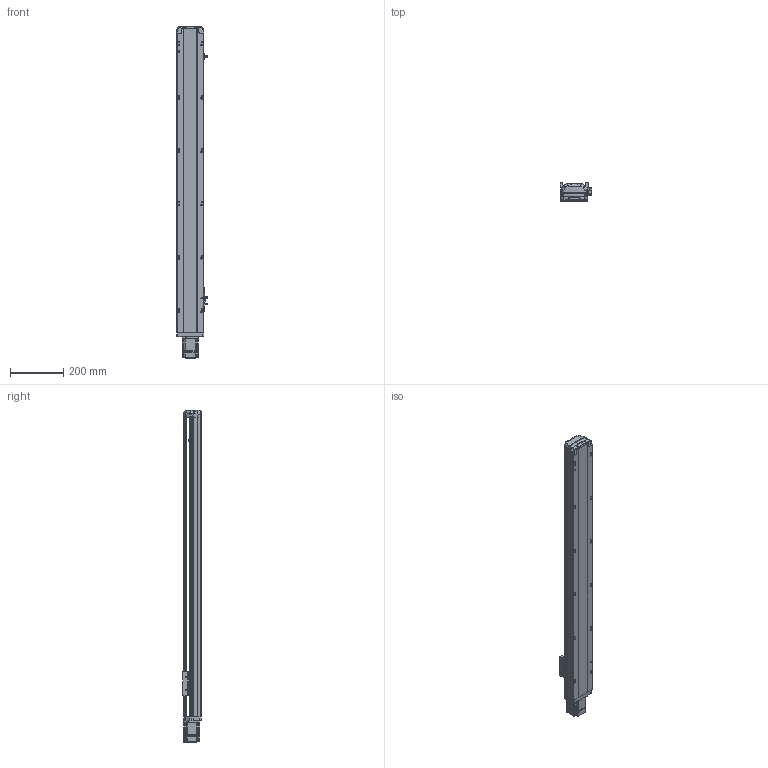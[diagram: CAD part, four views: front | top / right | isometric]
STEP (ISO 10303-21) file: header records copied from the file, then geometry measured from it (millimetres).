
FILE_DESCRIPTION (( 'STEP AP214' ), '1' );
FILE_NAME ('RTH10-XX-900-E-M20-C4.STEP', '2025-10-24T10:48:07', ( '' ), ( '' ), 'SwSTEP 2.0', 'SolidWorks 2018', '' );
FILE_SCHEMA (( 'AUTOMOTIVE_DESIGN' ));
Length unit declared in the file: millimetre
Products named in the file (9): N_RTH12-E-007P-奻裔^RTH10-XX-XX-E-M20-C4ㄗ源最宒ㄘ; N_RTH12-GY-004-滑座^RTH10-XX-XX-E-M20-C4（方程式）; N_RTH13-L-012感应片外置^RTH10-XX-XX-E-M20-C4（方程式）; N_200W-1^RTH10-XX-XX-E-M20-C4（方程式）; N_RTH12-E-011P-臏倰第菁釱^RTH10-XX-XX-E-M20-C4ㄗ源最宒ㄘ; N_RTH12-E-008-M20电机板^RTH10-XX-XX-E-M20-C4（方程式）; RTH10-XX-900-E-M20-C4; N_OMRON EE-SX672 換覜ん^RTH10-XX-XX-E-M20-C4ㄗ源最宒ㄘ; N_RTH12-GY-001P^RTH10-XX-XX-E-M20-C4（方程式）
Assembly tree (10 placements, depth 2):
  RTH10-XX-900-E-M20-C4
    N_RTH12-E-011P-臏倰第菁釱^RTH10-XX-XX-E-M20-C4ㄗ源最宒ㄘ
    N_RTH13-L-012感应片外置^RTH10-XX-XX-E-M20-C4（方程式）
    N_OMRON EE-SX672 換覜ん^RTH10-XX-XX-E-M20-C4ㄗ源最宒ㄘ  x3
    N_RTH12-E-007P-奻裔^RTH10-XX-XX-E-M20-C4ㄗ源最宒ㄘ
    N_RTH12-GY-001P^RTH10-XX-XX-E-M20-C4（方程式）
    N_RTH12-GY-004-滑座^RTH10-XX-XX-E-M20-C4（方程式）
    N_200W-1^RTH10-XX-XX-E-M20-C4（方程式）
    N_RTH12-E-008-M20电机板^RTH10-XX-XX-E-M20-C4（方程式）
Bounding box: 116.5 x 70 x 1245.31 mm (x, y, z)
Volume: 4720221.9 mm3; surface area: 725979.3 mm2
Topology: 9 solids, 11 shells, 2028 faces, 5650 edges, 3710 vertices
Faces by surface type: plane 1012, cylinder 509, bspline 472, cone 33, torus 2
Entity records: 61252 total; most frequent: CARTESIAN_POINT 23746, ORIENTED_EDGE 8380, DIRECTION 6546, EDGE_CURVE 4196, VERTEX_POINT 2754, VECTOR 2254, LINE 2254, AXIS2_PLACEMENT_3D 2146
